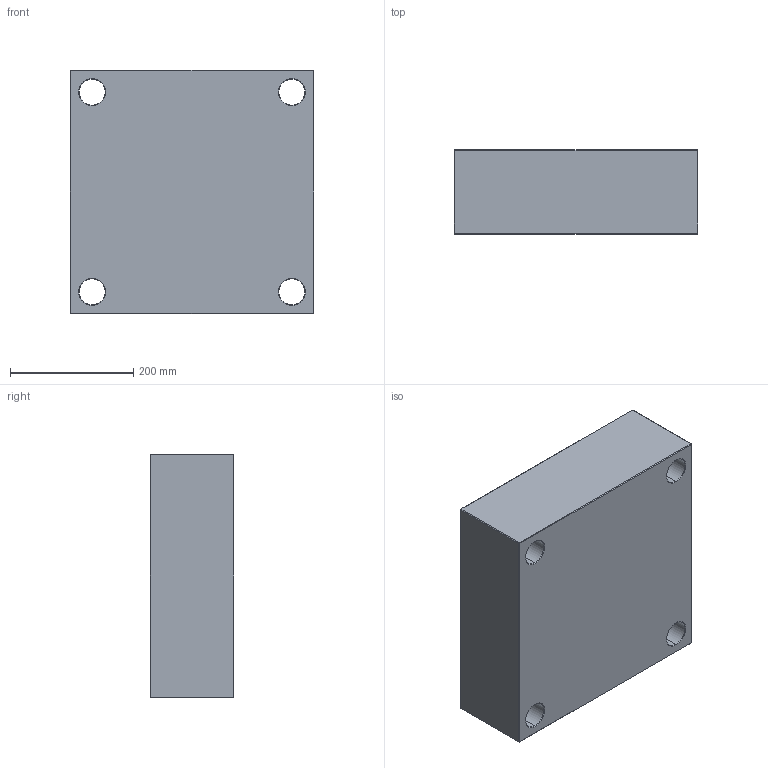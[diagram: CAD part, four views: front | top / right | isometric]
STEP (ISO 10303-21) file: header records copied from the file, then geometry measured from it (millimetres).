
FILE_DESCRIPTION (( 'STEP AP214' ), '1' );
FILE_NAME ('PC-396x396x136.STEP', '2020-04-21T17:16:32', ( 'August' ), ( '' ), 'SwSTEP 2.0', 'SolidWorks 2018', '' );
FILE_SCHEMA (( 'AUTOMOTIVE_DESIGN' ));
Length unit declared in the file: millimetre
Products named in the file (1): PC-396x396x136
Bounding box: 396 x 136 x 396 mm (x, y, z)
Volume: 20539972.2 mm3; surface area: 592311 mm2
Topology: 1 solids, 1 shells, 82 faces, 168 edges, 96 vertices
Faces by surface type: plane 34, cone 24, cylinder 24
Entity records: 2170 total; most frequent: DIRECTION 406, CARTESIAN_POINT 347, ORIENTED_EDGE 336, EDGE_CURVE 168, AXIS2_PLACEMENT_3D 155, EDGE_LOOP 98, LINE 96, VECTOR 96
